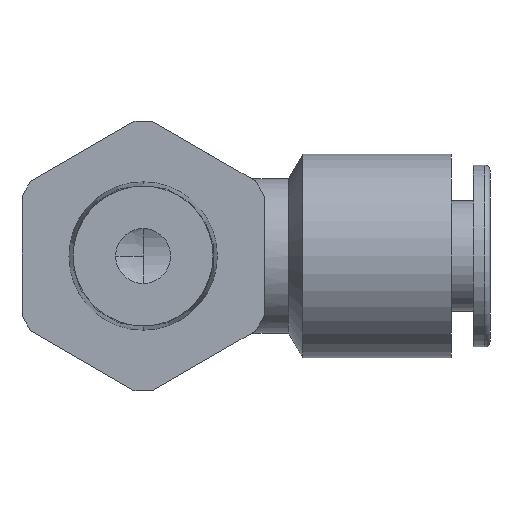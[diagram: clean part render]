
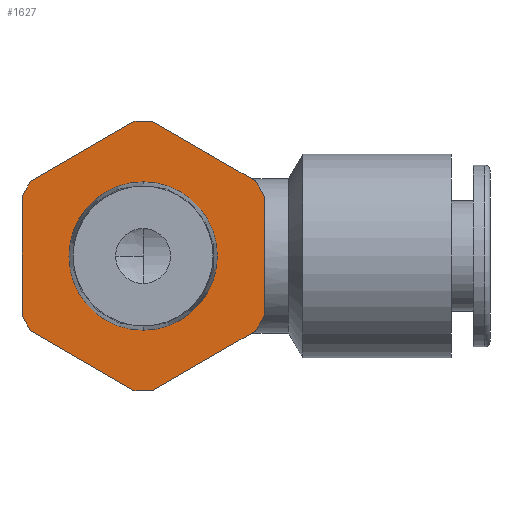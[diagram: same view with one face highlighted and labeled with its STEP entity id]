
A CAD part, front view. The second image highlights one B-rep face of the part: STEP entity #1627.
In plain terms, the highlighted planar face has unit normal (0, -1, 0).
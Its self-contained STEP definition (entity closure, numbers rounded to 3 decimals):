
#5 = DIRECTION ( 'NONE',  ( 0., -1., 0. ) ) ;
#14 = PLANE ( 'NONE',  #2422 ) ;
#16 = EDGE_CURVE ( 'NONE', #623, #75, #413, .T. ) ;
#29 = DIRECTION ( 'NONE',  ( -0.866, 0., -0.5 ) ) ;
#38 = AXIS2_PLACEMENT_3D ( 'NONE', #2803, #2369, #884 ) ;
#73 = VECTOR ( 'NONE', #2266, 1000. ) ;
#75 = VERTEX_POINT ( 'NONE', #1456 ) ;
#80 = AXIS2_PLACEMENT_3D ( 'NONE', #2073, #1900, #803 ) ;
#118 = DIRECTION ( 'NONE',  ( 0., 1., 0. ) ) ;
#122 = ORIENTED_EDGE ( 'NONE', *, *, #2177, .T. ) ;
#143 = VERTEX_POINT ( 'NONE', #2019 ) ;
#157 = DIRECTION ( 'NONE',  ( 0., 1., 0. ) ) ;
#240 = VERTEX_POINT ( 'NONE', #427 ) ;
#249 = DIRECTION ( 'NONE',  ( 0., 1., 0. ) ) ;
#266 = ORIENTED_EDGE ( 'NONE', *, *, #1191, .F. ) ;
#293 = ORIENTED_EDGE ( 'NONE', *, *, #2124, .F. ) ;
#329 = LINE ( 'NONE', #1196, #2601 ) ;
#338 = CARTESIAN_POINT ( 'NONE',  ( 11., -10.15, -5.391 ) ) ;
#357 = CARTESIAN_POINT ( 'NONE',  ( 0., -10.15, -6.734 ) ) ;
#361 = DIRECTION ( 'NONE',  ( 0., 0., -1. ) ) ;
#379 = DIRECTION ( 'NONE',  ( 0., 0., 1. ) ) ;
#395 = DIRECTION ( 'NONE',  ( 0., 0., 1. ) ) ;
#413 = CIRCLE ( 'NONE', #1735, 12.25 ) ;
#415 = ORIENTED_EDGE ( 'NONE', *, *, #1983, .F. ) ;
#424 = DIRECTION ( 'NONE',  ( 0., 0., 1. ) ) ;
#427 = CARTESIAN_POINT ( 'NONE',  ( -11., -10.15, -5.391 ) ) ;
#464 = ORIENTED_EDGE ( 'NONE', *, *, #2754, .F. ) ;
#502 = AXIS2_PLACEMENT_3D ( 'NONE', #754, #118, #379 ) ;
#505 = CIRCLE ( 'NONE', #2100, 6.734 ) ;
#507 = EDGE_CURVE ( 'NONE', #773, #512, #1007, .T. ) ;
#512 = VERTEX_POINT ( 'NONE', #1694 ) ;
#530 = ORIENTED_EDGE ( 'NONE', *, *, #1042, .T. ) ;
#547 = LINE ( 'NONE', #790, #1727 ) ;
#623 = VERTEX_POINT ( 'NONE', #910 ) ;
#639 = CARTESIAN_POINT ( 'NONE',  ( 0., -10.15, 0. ) ) ;
#658 = CARTESIAN_POINT ( 'NONE',  ( 11., -10.15, -6.351 ) ) ;
#662 = ORIENTED_EDGE ( 'NONE', *, *, #696, .T. ) ;
#665 = DIRECTION ( 'NONE',  ( 0., 1., 0. ) ) ;
#696 = EDGE_CURVE ( 'NONE', #2761, #2449, #2243, .T. ) ;
#721 = CARTESIAN_POINT ( 'NONE',  ( 11., -10.15, -6.351 ) ) ;
#754 = CARTESIAN_POINT ( 'NONE',  ( 0., -10.15, 0. ) ) ;
#773 = VERTEX_POINT ( 'NONE', #1731 ) ;
#790 = CARTESIAN_POINT ( 'NONE',  ( -11., -10.15, -6.351 ) ) ;
#803 = DIRECTION ( 'NONE',  ( 0., 0., -1. ) ) ;
#884 = DIRECTION ( 'NONE',  ( 0., 0., 1. ) ) ;
#910 = CARTESIAN_POINT ( 'NONE',  ( -0.831, -10.15, 12.222 ) ) ;
#923 = VERTEX_POINT ( 'NONE', #2304 ) ;
#962 = VECTOR ( 'NONE', #29, 1000. ) ;
#1007 = CIRCLE ( 'NONE', #2473, 12.25 ) ;
#1013 = ORIENTED_EDGE ( 'NONE', *, *, #2777, .T. ) ;
#1016 = CARTESIAN_POINT ( 'NONE',  ( -11., -10.15, 6.351 ) ) ;
#1032 = DIRECTION ( 'NONE',  ( 0., 0., 1. ) ) ;
#1042 = EDGE_CURVE ( 'NONE', #2742, #1987, #1364, .T. ) ;
#1144 = CARTESIAN_POINT ( 'NONE',  ( 0., -10.15, 12.702 ) ) ;
#1191 = EDGE_CURVE ( 'NONE', #1397, #2449, #2496, .T. ) ;
#1192 = VERTEX_POINT ( 'NONE', #1426 ) ;
#1196 = CARTESIAN_POINT ( 'NONE',  ( 11., -10.15, 6.351 ) ) ;
#1202 = ORIENTED_EDGE ( 'NONE', *, *, #2018, .T. ) ;
#1258 = FACE_OUTER_BOUND ( 'NONE', #1775, .T. ) ;
#1350 = VECTOR ( 'NONE', #1533, 1000. ) ;
#1364 = LINE ( 'NONE', #1613, #73 ) ;
#1397 = VERTEX_POINT ( 'NONE', #1610 ) ;
#1419 = LINE ( 'NONE', #1016, #1526 ) ;
#1420 = VERTEX_POINT ( 'NONE', #357 ) ;
#1423 = DIRECTION ( 'NONE',  ( 0., -1., 0. ) ) ;
#1426 = CARTESIAN_POINT ( 'NONE',  ( -0.831, -10.15, -12.222 ) ) ;
#1456 = CARTESIAN_POINT ( 'NONE',  ( 0., -10.15, 12.25 ) ) ;
#1480 = CIRCLE ( 'NONE', #80, 6.734 ) ;
#1506 = DIRECTION ( 'NONE',  ( 0., 0., -1. ) ) ;
#1524 = AXIS2_PLACEMENT_3D ( 'NONE', #2374, #1952, #395 ) ;
#1526 = VECTOR ( 'NONE', #1858, 1000. ) ;
#1533 = DIRECTION ( 'NONE',  ( 0., 0., 1. ) ) ;
#1607 = EDGE_CURVE ( 'NONE', #2742, #1192, #2276, .T. ) ;
#1610 = CARTESIAN_POINT ( 'NONE',  ( 10.169, -10.15, 6.831 ) ) ;
#1613 = CARTESIAN_POINT ( 'NONE',  ( 0., -10.15, -12.702 ) ) ;
#1627 = ADVANCED_FACE ( 'NONE', ( #1710, #1258 ), #14, .T. ) ;
#1639 = EDGE_LOOP ( 'NONE', ( #293, #464 ) ) ;
#1657 = CARTESIAN_POINT ( 'NONE',  ( 0., -10.15, 0. ) ) ;
#1694 = CARTESIAN_POINT ( 'NONE',  ( -10.169, -10.15, 6.831 ) ) ;
#1710 = FACE_BOUND ( 'NONE', #1639, .T. ) ;
#1727 = VECTOR ( 'NONE', #2529, 1000. ) ;
#1730 = CIRCLE ( 'NONE', #502, 12.25 ) ;
#1731 = CARTESIAN_POINT ( 'NONE',  ( -11., -10.15, 5.391 ) ) ;
#1735 = AXIS2_PLACEMENT_3D ( 'NONE', #2123, #157, #1032 ) ;
#1742 = ORIENTED_EDGE ( 'NONE', *, *, #1935, .F. ) ;
#1761 = CARTESIAN_POINT ( 'NONE',  ( 0., -10.15, 0. ) ) ;
#1775 = EDGE_LOOP ( 'NONE', ( #530, #2530, #662, #266, #122, #415, #2074, #1202, #2303, #1013, #1742, #1890, #1984 ) ) ;
#1820 = CARTESIAN_POINT ( 'NONE',  ( 10.169, -10.15, -6.831 ) ) ;
#1821 = CIRCLE ( 'NONE', #38, 12.25 ) ;
#1836 = DIRECTION ( 'NONE',  ( -0.866, 0., 0.5 ) ) ;
#1844 = CARTESIAN_POINT ( 'NONE',  ( 0.831, -10.15, -12.222 ) ) ;
#1846 = EDGE_CURVE ( 'NONE', #2761, #1987, #1730, .T. ) ;
#1858 = DIRECTION ( 'NONE',  ( 0., 0., -1. ) ) ;
#1890 = ORIENTED_EDGE ( 'NONE', *, *, #2788, .T. ) ;
#1900 = DIRECTION ( 'NONE',  ( 0., -1., 0. ) ) ;
#1930 = CARTESIAN_POINT ( 'NONE',  ( -10.169, -10.15, -6.831 ) ) ;
#1935 = EDGE_CURVE ( 'NONE', #2405, #240, #1821, .T. ) ;
#1952 = DIRECTION ( 'NONE',  ( 0., 1., 0. ) ) ;
#1983 = EDGE_CURVE ( 'NONE', #75, #143, #2557, .T. ) ;
#1984 = ORIENTED_EDGE ( 'NONE', *, *, #1607, .F. ) ;
#1987 = VERTEX_POINT ( 'NONE', #1820 ) ;
#1992 = DIRECTION ( 'NONE',  ( 0., 0., 1. ) ) ;
#2018 = EDGE_CURVE ( 'NONE', #623, #512, #2457, .T. ) ;
#2019 = CARTESIAN_POINT ( 'NONE',  ( 0.831, -10.15, 12.222 ) ) ;
#2073 = CARTESIAN_POINT ( 'NONE',  ( 0., -10.15, 0. ) ) ;
#2074 = ORIENTED_EDGE ( 'NONE', *, *, #16, .F. ) ;
#2100 = AXIS2_PLACEMENT_3D ( 'NONE', #2508, #1423, #361 ) ;
#2123 = CARTESIAN_POINT ( 'NONE',  ( 0., -10.15, 0. ) ) ;
#2124 = EDGE_CURVE ( 'NONE', #923, #1420, #505, .T. ) ;
#2177 = EDGE_CURVE ( 'NONE', #1397, #143, #329, .T. ) ;
#2193 = AXIS2_PLACEMENT_3D ( 'NONE', #1761, #249, #1992 ) ;
#2243 = LINE ( 'NONE', #721, #1350 ) ;
#2266 = DIRECTION ( 'NONE',  ( 0.866, 0., 0.5 ) ) ;
#2276 = CIRCLE ( 'NONE', #1524, 12.25 ) ;
#2303 = ORIENTED_EDGE ( 'NONE', *, *, #507, .F. ) ;
#2304 = CARTESIAN_POINT ( 'NONE',  ( 0., -10.15, 6.734 ) ) ;
#2369 = DIRECTION ( 'NONE',  ( 0., 1., 0. ) ) ;
#2374 = CARTESIAN_POINT ( 'NONE',  ( 0., -10.15, 0. ) ) ;
#2405 = VERTEX_POINT ( 'NONE', #1930 ) ;
#2422 = AXIS2_PLACEMENT_3D ( 'NONE', #658, #5, #1506 ) ;
#2449 = VERTEX_POINT ( 'NONE', #2572 ) ;
#2457 = LINE ( 'NONE', #1144, #962 ) ;
#2458 = AXIS2_PLACEMENT_3D ( 'NONE', #1657, #2749, #2535 ) ;
#2473 = AXIS2_PLACEMENT_3D ( 'NONE', #639, #665, #424 ) ;
#2496 = CIRCLE ( 'NONE', #2458, 12.25 ) ;
#2508 = CARTESIAN_POINT ( 'NONE',  ( 0., -10.15, 0. ) ) ;
#2529 = DIRECTION ( 'NONE',  ( 0.866, 0., -0.5 ) ) ;
#2530 = ORIENTED_EDGE ( 'NONE', *, *, #1846, .F. ) ;
#2535 = DIRECTION ( 'NONE',  ( 0., 0., 1. ) ) ;
#2557 = CIRCLE ( 'NONE', #2193, 12.25 ) ;
#2572 = CARTESIAN_POINT ( 'NONE',  ( 11., -10.15, 5.391 ) ) ;
#2601 = VECTOR ( 'NONE', #1836, 1000. ) ;
#2742 = VERTEX_POINT ( 'NONE', #1844 ) ;
#2749 = DIRECTION ( 'NONE',  ( 0., 1., 0. ) ) ;
#2754 = EDGE_CURVE ( 'NONE', #1420, #923, #1480, .T. ) ;
#2761 = VERTEX_POINT ( 'NONE', #338 ) ;
#2777 = EDGE_CURVE ( 'NONE', #773, #240, #1419, .T. ) ;
#2788 = EDGE_CURVE ( 'NONE', #2405, #1192, #547, .T. ) ;
#2803 = CARTESIAN_POINT ( 'NONE',  ( 0., -10.15, 0. ) ) ;
